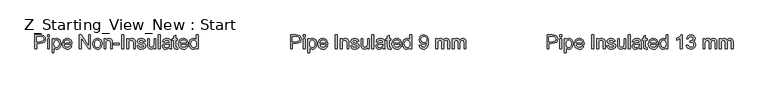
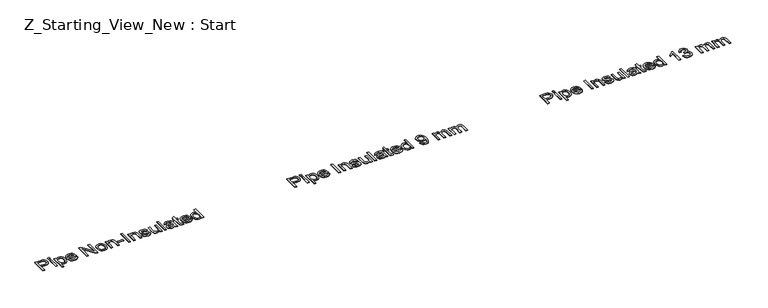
"""IFC4 building model written with IfcOpenShell, lengths in millimetres: pipe fitting geometry, Z_Starting_View_New : Start."""

from ifc_helpers import new_model, si_unit, origin, origin_with_axes, place, context, project, spatial, polyline, outline, extrude, source, transform, mapped, element, save


def z_starting_view_new_start_ca53cdfe(model_context):
    return source(origin(), model_context, "Body", "SweptSolid", [
        extrude(outline(polyline([(27240.5563046, 7445.7857303), (27240.5563046, 7596.4701955), (27296.4007914, 7596.4701955), (27318.9151695, 7595.0354557), (27337.2172988, 7587.9905155), (27349.0814931, 7573.4223885), (27353.5696535, 7552.8761791), (27350.5392255, 7535.1166757), (27341.4479417, 7520.3186225), (27324.447195, 7510.3306263), (27297.6883784, 7507.0012943), (27259.3918627, 7507.0012943), (27259.3918627, 7445.7857303), (27240.5563046, 7445.7857303)]), holes=[polyline([(27259.3918627, 7525.8368524), (27298.7920244, 7525.8368524), (27315.493867, 7527.5658978), (27326.5303268, 7532.7530339), (27332.6831532, 7541.0763641), (27334.7340953, 7552.2139915), (27329.8964471, 7567.8121881), (27317.1861241, 7576.3470504), (27298.350566, 7577.6346373), (27259.3918627, 7577.6346373), (27259.3918627, 7525.8368524)])]), origin_with_axes(), (0.0, 0.0, 1.0), 5.0),
        extrude(outline(polyline([(27377.1141012, 7445.7857303), (27377.1141012, 7556.4446344), (27395.9496593, 7556.4446344), (27395.9496593, 7445.7857303), (27377.1141012, 7445.7857303)])), origin_with_axes(), (0.0, 0.0, 1.0), 5.0),
        extrude(outline(polyline([(27377.1141012, 7577.6346373), (27377.1141012, 7596.4701955), (27395.9496593, 7596.4701955), (27395.9496593, 7577.6346373), (27377.1141012, 7577.6346373)])), origin_with_axes(), (0.0, 0.0, 1.0), 5.0),
        extrude(outline(polyline([(27424.2029965, 7403.4057244), (27424.2029965, 7556.4446344), (27443.0385547, 7556.4446344), (27443.0385547, 7537.9769583), (27456.0615773, 7553.593549), (27473.6463367, 7558.7990792), (27486.3842508, 7556.9780633), (27497.5218782, 7551.5150157), (27506.5901694, 7542.7410301), (27513.1200748, 7530.9872003), (27518.3807873, 7501.9613109), (27516.8954638, 7485.8526781), (27512.4394931, 7471.4454994), (27505.1554296, 7459.4709405), (27495.1858275, 7450.6601667), (27483.574552, 7445.2385058), (27471.3654683, 7443.4312855), (27454.9763254, 7448.2689337), (27443.0385547, 7460.5010101), (27443.0385547, 7403.4057244), (27424.2029965, 7403.4057244)]), holes=[polyline([(27443.0385547, 7500.2322656), (27445.0757012, 7483.346482), (27451.1871409, 7471.5374699), (27460.2048483, 7464.5845002), (27470.9607981, 7462.2668436), (27481.8914919, 7464.6672737), (27491.1391256, 7471.8685637), (27497.4437033, 7484.1098371), (27499.5452292, 7501.6302171), (27497.494287, 7518.4240302), (27491.3414607, 7530.3985892), (27482.3375488, 7537.5722881), (27471.7333503, 7539.963521), (27461.0877651, 7537.4205367), (27451.7389639, 7529.7915839), (27445.213657, 7517.3157857), (27443.0385547, 7500.2322656)])]), origin_with_axes(), (0.0, 0.0, 1.0), 5.0),
        extrude(outline(polyline([(27617.0467384, 7478.747957), (27635.5144146, 7476.3935123), (27628.860349, 7462.4783758), (27618.2423549, 7452.0765124), (27603.8995556, 7445.5925922), (27586.0710744, 7443.4312855), (27563.9705636, 7447.1606892), (27546.9652183, 7458.3489004), (27536.1218965, 7476.2693521), (27532.5074559, 7500.1954774), (27536.1586847, 7524.9263445), (27547.1123711, 7543.4216118), (27563.8877901, 7554.9547123), (27585.0042166, 7558.7990792), (27605.4630541, 7554.9639094), (27621.8108103, 7543.4584), (27632.5299719, 7524.9999209), (27636.1030258, 7500.305842), (27635.9926612, 7495.2290704), (27551.3430141, 7495.2290704), (27554.6033683, 7481.129993), (27562.1771388, 7470.7649177), (27573.1078326, 7464.3913622), (27586.4389564, 7462.2668436), (27604.9066326, 7466.203181), (27617.0467384, 7478.747957)]), holes=[polyline([(27551.3430141, 7514.0646286), (27617.2674676, 7514.0646286), (27614.7198848, 7524.0158365), (27609.7258867, 7531.1343531), (27598.7446092, 7537.7562291), (27584.9306402, 7539.963521), (27572.2341129, 7538.202286), (27561.7356804, 7532.9185808), (27554.4378214, 7524.6826227), (27551.3430141, 7514.0646286)])]), origin_with_axes(), (0.0, 0.0, 1.0), 5.0),
        extrude(outline(polyline([(27718.5085927, 7445.7857303), (27718.5085927, 7596.4701955), (27737.3441508, 7596.4701955), (27737.3441508, 7445.7857303), (27718.5085927, 7445.7857303)])), origin_with_axes(), (0.0, 0.0, 1.0), 5.0),
        extrude(outline(polyline([(27772.6608224, 7445.7857303), (27772.6608224, 7556.4446344), (27791.4963805, 7556.4446344), (27791.4963805, 7540.9935906), (27805.8989606, 7554.347707), (27825.5622533, 7558.7990792), (27843.3493477, 7555.2122297), (27855.4894536, 7545.7944507), (27861.1364422, 7531.9436935), (27862.1297236, 7513.7335348), (27862.1297236, 7445.7857303), (27843.2941654, 7445.7857303), (27843.2941654, 7511.195149), (27841.1236617, 7527.8602034), (27833.4533221, 7536.6709772), (27820.5222699, 7539.963521), (27809.4904086, 7538.114914), (27800.0864251, 7532.5690929), (27793.6438917, 7521.8545298), (27791.4963805, 7504.4996967), (27791.4963805, 7445.7857303), (27772.6608224, 7445.7857303)])), origin_with_axes(), (0.0, 0.0, 1.0), 5.0),
        extrude(outline(polyline([(27880.9652818, 7478.747957), (27899.8008399, 7481.1024018), (27902.771487, 7473.0457861), (27908.5196432, 7467.122886), (27928.4956355, 7462.2668436), (27947.6990757, 7466.7182158), (27953.9530696, 7477.1660645), (27952.3803741, 7481.9669245), (27947.6622875, 7485.6273503), (27928.2749063, 7490.9984275), (27899.9112045, 7500.2138715), (27887.5319754, 7510.9744198), (27883.3197265, 7526.1679462), (27886.7042409, 7540.2026443), (27895.938079, 7550.9264045), (27907.9126379, 7556.4998167), (27924.1178398, 7558.7990792), (27947.0368881, 7555.1018651), (27961.6050151, 7545.0954749), (27968.0797382, 7528.1912972), (27949.2441801, 7525.8368524), (27942.1624517, 7536.2295188), (27925.5893678, 7539.963521), (27907.56315, 7536.3950657), (27902.1552847, 7528.0809326), (27904.3993648, 7522.5994909), (27911.425911, 7518.4424243), (27927.6495069, 7514.4325106), (27955.2958389, 7505.5665545), (27968.1349205, 7495.523376), (27972.7886278, 7479.1526272), (27967.3255801, 7461.1264095), (27951.5618366, 7448.0482045), (27928.2381181, 7443.4312855), (27909.2462101, 7445.6569716), (27895.386256, 7452.3340298), (27886.1340238, 7463.3888837), (27880.9652818, 7478.747957)])), origin_with_axes(), (0.0, 0.0, 1.0), 5.0),
        extrude(outline(polyline([(28064.6119737, 7445.7857303), (28064.6119737, 7464.8052294), (28049.8599057, 7448.7747715), (28030.6196774, 7443.4312855), (28012.9061593, 7447.1836818), (28000.6924771, 7456.6014609), (27995.0822767, 7470.4706121), (27993.9786307, 7487.9817951), (27993.9786307, 7556.4446344), (28012.8141888, 7556.4446344), (28012.8141888, 7496.8477512), (28013.954623, 7477.644311), (28021.4042334, 7466.3687279), (28035.4389315, 7462.2668436), (28051.1658868, 7466.4606984), (28061.5585532, 7477.8834343), (28064.6119737, 7498.8711022), (28064.6119737, 7556.4446344), (28083.4475319, 7556.4446344), (28083.4475319, 7445.7857303), (28064.6119737, 7445.7857303)])), origin_with_axes(), (0.0, 0.0, 1.0), 5.0),
        extrude(outline(polyline([(28109.3464244, 7445.7857303), (28109.3464244, 7596.4701955), (28128.1819825, 7596.4701955), (28128.1819825, 7445.7857303), (28109.3464244, 7445.7857303)])), origin_with_axes(), (0.0, 0.0, 1.0), 5.0),
        extrude(outline(polyline([(28227.0686628, 7459.9123989), (28208.8033218, 7447.1468936), (28188.6249943, 7443.4312855), (28172.8842435, 7445.6661686), (28161.272968, 7452.370818), (28154.1130646, 7462.5519522), (28151.7264302, 7475.2162899), (28155.3316738, 7490.1155107), (28164.8046351, 7500.9312413), (28177.9932047, 7507.1116589), (28194.290377, 7509.9443502), (28226.9582982, 7516.4190733), (28227.0686628, 7520.6129281), (28225.7718788, 7529.0190317), (28221.8815267, 7534.5188675), (28213.1811175, 7538.6023576), (28201.0594058, 7539.963521), (28182.0031184, 7536.3398834), (28172.9164331, 7523.4824076), (28154.080875, 7525.8368524), (28162.2294612, 7544.2309522), (28178.6369982, 7555.0098946), (28203.4874269, 7558.7990792), (28226.3145047, 7555.451353), (28239.2087687, 7547.0452494), (28244.984516, 7534.2613501), (28245.904221, 7517.7802367), (28245.904221, 7494.3461536), (28246.8607142, 7461.6230502), (28250.6131105, 7445.7857303), (28231.7775524, 7445.7857303), (28227.0686628, 7459.9123989)]), holes=[polyline([(28227.0686628, 7497.5835152), (28196.68161, 7491.8077679), (28180.4764081, 7488.7543473), (28173.1371623, 7483.7879404), (28170.5619884, 7476.5406651), (28176.1721888, 7466.3503338), (28192.6349081, 7462.2668436), (28211.6911954, 7466.7733981), (28223.9784541, 7477.6810992), (28226.9582982, 7492.2492263), (28227.0686628, 7497.5835152)])]), origin_with_axes(), (0.0, 0.0, 1.0), 5.0),
        extrude(outline(polyline([(28311.8286745, 7461.4942915), (28314.1831193, 7445.2339073), (28300.0932389, 7443.4312855), (28284.3111013, 7446.5582825), (28276.4384266, 7454.7620509), (28274.1575582, 7476.1359949), (28274.1575582, 7537.6090763), (28260.0308896, 7537.6090763), (28260.0308896, 7556.4446344), (28274.1575582, 7556.4446344), (28274.1575582, 7583.3368083), (28292.9931164, 7594.4100563), (28292.9931164, 7556.4446344), (28311.8286745, 7556.4446344), (28311.8286745, 7537.6090763), (28292.9931164, 7537.6090763), (28292.9931164, 7476.6878179), (28293.9863977, 7466.9757332), (28297.2053652, 7463.5360365), (28303.624906, 7462.2668436), (28311.8286745, 7461.4942915)])), origin_with_axes(), (0.0, 0.0, 1.0), 5.0),
        extrude(outline(polyline([(28408.1401808, 7478.747957), (28426.607857, 7476.3935123), (28419.9537914, 7462.4783758), (28409.3357973, 7452.0765124), (28394.992998, 7445.5925922), (28377.1645168, 7443.4312855), (28355.064006, 7447.1606892), (28338.0586608, 7458.3489004), (28327.215339, 7476.2693521), (28323.6008984, 7500.1954774), (28327.2521272, 7524.9263445), (28338.2058136, 7543.4216118), (28354.9812325, 7554.9547123), (28376.0976591, 7558.7990792), (28396.5564965, 7554.9639094), (28412.9042527, 7543.4584), (28423.6234143, 7524.9999209), (28427.1964682, 7500.305842), (28427.0861036, 7495.2290704), (28342.4364565, 7495.2290704), (28345.6968107, 7481.129993), (28353.2705813, 7470.7649177), (28364.201275, 7464.3913622), (28377.5323988, 7462.2668436), (28396.000075, 7466.203181), (28408.1401808, 7478.747957)]), holes=[polyline([(28342.4364565, 7514.0646286), (28408.36091, 7514.0646286), (28405.8133272, 7524.0158365), (28400.8193291, 7531.1343531), (28389.8380516, 7537.7562291), (28376.0240827, 7539.963521), (28363.3275553, 7538.202286), (28352.8291229, 7532.9185808), (28345.5312638, 7524.6826227), (28342.4364565, 7514.0646286)])]), origin_with_axes(), (0.0, 0.0, 1.0), 5.0),
        extrude(outline(polyline([(28514.3109247, 7445.7857303), (28514.3109247, 7463.5544306), (28501.8489221, 7448.4620718), (28484.6228476, 7443.4312855), (28472.4459536, 7445.2523014), (28461.2991291, 7450.715349), (28451.862956, 7459.4387508), (28444.8180158, 7471.0408292), (28440.431023, 7485.0525347), (28438.968692, 7501.0048177), (28444.3581633, 7530.9872003), (28451.0904038, 7542.8789858), (28460.5081829, 7551.6253803), (28471.8987291, 7557.0056545), (28484.5492712, 7558.7990792), (28501.9133014, 7553.6671254), (28514.3109247, 7540.331403), (28514.3109247, 7596.4701955), (28533.1464828, 7596.4701955), (28533.1464828, 7445.7857303), (28514.3109247, 7445.7857303)]), holes=[polyline([(28457.8042502, 7501.0783941), (28459.9287687, 7484.0408592), (28466.3023243, 7471.923746), (28475.5637535, 7464.6810692), (28486.351893, 7462.2668436), (28497.135434, 7464.5707046), (28506.1623385, 7471.4822876), (28512.2737781, 7483.1303513), (28514.3109247, 7499.6436544), (28512.2369899, 7517.6974633), (28506.0151857, 7530.2146482), (28496.758355, 7537.5263028), (28485.5793408, 7539.963521), (28474.6808367, 7537.6228718), (28465.7505013, 7530.6009243), (28459.790813, 7518.5389933), (28457.8042502, 7501.0783941)])]), origin_with_axes(), (0.0, 0.0, 1.0), 5.0),
        extrude(outline(polyline([(28686.1853928, 7445.7857303), (28667.3498346, 7445.7857303), (28667.3498346, 7563.2136631), (28649.5075579, 7550.5033402), (28629.6787183, 7540.9935906), (28629.6787183, 7558.7990792), (28657.2882621, 7576.4206268), (28674.045287, 7596.4701955), (28686.1853928, 7596.4701955), (28686.1853928, 7445.7857303)])), origin_with_axes(), (0.0, 0.0, 1.0), 5.0),
        extrude(outline(polyline([(28730.9198434, 7485.8112913), (28749.7554016, 7488.1657361), (28753.9722489, 7476.3291329), (28760.1480679, 7468.3368966), (28768.5863612, 7463.7843569), (28779.5906314, 7462.2668436), (28792.5032894, 7464.354574), (28802.4728915, 7470.6177649), (28808.846447, 7479.9619676), (28810.9709656, 7491.2927331), (28808.8648411, 7502.0486829), (28802.5464679, 7510.7720847), (28792.981536, 7516.5524306), (28781.1357358, 7518.4792125), (28767.9287721, 7516.4190733), (28770.0256995, 7535.2546315), (28773.0423319, 7535.0339023), (28794.4162758, 7540.4417676), (28801.5347924, 7547.3027668), (28803.9076313, 7557.0700338), (28802.1877829, 7565.2048244), (28797.0282379, 7571.8037077), (28789.1555632, 7576.1769049), (28779.2963258, 7577.6346373), (28769.4186942, 7576.1631094), (28761.3436844, 7571.7485254), (28755.4483754, 7564.3908855), (28752.1098463, 7554.0901896), (28733.2742882, 7556.4446344), (28738.8201093, 7573.3580091), (28748.6885438, 7585.9855586), (28762.189813, 7593.8490363), (28778.6341382, 7596.4701955), (28801.3508514, 7591.3014535), (28817.2433536, 7577.1747848), (28822.7431894, 7558.1736798), (28817.5192651, 7540.8096496), (28802.0682213, 7528.33845), (28813.8588392, 7523.5743781), (28822.5960366, 7515.4625802), (28828.0039019, 7504.4445144), (28829.8065237, 7490.9616393), (28826.2012802, 7472.6043277), (28815.3855495, 7457.2636485), (28799.060786, 7446.8893763), (28778.9284438, 7443.4312855), (28760.718285, 7446.3835385), (28745.8926406, 7455.2402975), (28735.5827477, 7468.787552), (28730.9198434, 7485.8112913)])), origin_with_axes(), (0.0, 0.0, 1.0), 5.0),
        extrude(outline(polyline([(28909.8576459, 7445.7857303), (28909.8576459, 7556.4446344), (28928.693204, 7556.4446344), (28928.693204, 7538.2344757), (28941.6426502, 7553.1520906), (28960.0735382, 7558.7990792), (28970.548978, 7557.3597409), (28978.9458846, 7553.041726), (28989.3201568, 7536.9101005), (29004.0170425, 7553.3268345), (29022.5766892, 7558.7990792), (29036.7355475, 7556.5228093), (29047.2063888, 7549.6939998), (29053.6765134, 7538.1287096), (29055.8332216, 7521.6429977), (29055.8332216, 7445.7857303), (29036.9976634, 7445.7857303), (29036.9976634, 7513.5495938), (29035.2502239, 7529.2765491), (29028.9226536, 7537.0204651), (29018.1621052, 7539.963521), (29007.9579784, 7538.0781258), (28999.6392468, 7532.4219401), (28994.1072213, 7522.6086879), (28992.2632128, 7508.252093), (28992.2632128, 7445.7857303), (28973.4276546, 7445.7857303), (28973.4276546, 7515.6465212), (28969.068253, 7533.8934681), (28963.3154983, 7538.4460078), (28954.7760375, 7539.963521), (28940.8333099, 7535.9168191), (28931.5626836, 7524.0710188), (28928.693204, 7501.5934289), (28928.693204, 7445.7857303), (28909.8576459, 7445.7857303)])), origin_with_axes(), (0.0, 0.0, 1.0), 5.0),
        extrude(outline(polyline([(29084.0865588, 7445.7857303), (29084.0865588, 7556.4446344), (29102.9221169, 7556.4446344), (29102.9221169, 7538.2344757), (29115.8715632, 7553.1520906), (29134.3024511, 7558.7990792), (29144.7778909, 7557.3597409), (29153.1747975, 7553.041726), (29163.5490697, 7536.9101005), (29178.2459554, 7553.3268345), (29196.8056021, 7558.7990792), (29210.9644604, 7556.5228093), (29221.4353017, 7549.6939998), (29227.9054263, 7538.1287096), (29230.0621345, 7521.6429977), (29230.0621345, 7445.7857303), (29211.2265763, 7445.7857303), (29211.2265763, 7513.5495938), (29209.4791368, 7529.2765491), (29203.1515665, 7537.0204651), (29192.3910182, 7539.963521), (29182.1868913, 7538.0781258), (29173.8681597, 7532.4219401), (29168.3361342, 7522.6086879), (29166.4921257, 7508.252093), (29166.4921257, 7445.7857303), (29147.6565675, 7445.7857303), (29147.6565675, 7515.6465212), (29143.2971659, 7533.8934681), (29137.5444112, 7538.4460078), (29129.0049504, 7539.963521), (29115.0622228, 7535.9168191), (29105.7915965, 7524.0710188), (29102.9221169, 7501.5934289), (29102.9221169, 7445.7857303), (29084.0865588, 7445.7857303)])), origin_with_axes(), (0.0, 0.0, 1.0), 5.0),
        extrude(outline(polyline([(24498.2402014, 7445.7857303), (24498.2402014, 7596.4701955), (24554.0846883, 7596.4701955), (24576.5990664, 7595.0354557), (24594.9011956, 7587.9905155), (24606.76539, 7573.4223885), (24611.2535503, 7552.8761791), (24608.2231224, 7535.1166757), (24599.1318386, 7520.3186225), (24582.1310919, 7510.3306263), (24555.3722752, 7507.0012943), (24517.0757595, 7507.0012943), (24517.0757595, 7445.7857303), (24498.2402014, 7445.7857303)]), holes=[polyline([(24517.0757595, 7525.8368524), (24556.4759212, 7525.8368524), (24573.1777638, 7527.5658978), (24584.2142237, 7532.7530339), (24590.36705, 7541.0763641), (24592.4179922, 7552.2139915), (24587.5803439, 7567.8121881), (24574.870021, 7576.3470504), (24556.0344628, 7577.6346373), (24517.0757595, 7577.6346373), (24517.0757595, 7525.8368524)])]), origin_with_axes(), (0.0, 0.0, 1.0), 5.0),
        extrude(outline(polyline([(24634.797998, 7445.7857303), (24634.797998, 7556.4446344), (24653.6335562, 7556.4446344), (24653.6335562, 7445.7857303), (24634.797998, 7445.7857303)])), origin_with_axes(), (0.0, 0.0, 1.0), 5.0),
        extrude(outline(polyline([(24634.797998, 7577.6346373), (24634.797998, 7596.4701955), (24653.6335562, 7596.4701955), (24653.6335562, 7577.6346373), (24634.797998, 7577.6346373)])), origin_with_axes(), (0.0, 0.0, 1.0), 5.0),
        extrude(outline(polyline([(24681.8868934, 7403.4057244), (24681.8868934, 7556.4446344), (24700.7224515, 7556.4446344), (24700.7224515, 7537.9769583), (24713.7454742, 7553.593549), (24731.3302335, 7558.7990792), (24744.0681476, 7556.9780633), (24755.205775, 7551.5150157), (24764.2740662, 7542.7410301), (24770.8039716, 7530.9872003), (24776.0646842, 7501.9613109), (24774.5793606, 7485.8526781), (24770.1233899, 7471.4454994), (24762.8393264, 7459.4709405), (24752.8697244, 7450.6601667), (24741.2584489, 7445.2385058), (24729.0493652, 7443.4312855), (24712.6602223, 7448.2689337), (24700.7224515, 7460.5010101), (24700.7224515, 7403.4057244), (24681.8868934, 7403.4057244)]), holes=[polyline([(24700.7224515, 7500.2322656), (24702.7595981, 7483.346482), (24708.8710377, 7471.5374699), (24717.8887451, 7464.5845002), (24728.644695, 7462.2668436), (24739.5753888, 7464.6672737), (24748.8230224, 7471.8685637), (24755.1276001, 7484.1098371), (24757.229126, 7501.6302171), (24755.1781839, 7518.4240302), (24749.0253575, 7530.3985892), (24740.0214457, 7537.5722881), (24729.4172472, 7539.963521), (24718.7716619, 7537.4205367), (24709.4228607, 7529.7915839), (24702.8975538, 7517.3157857), (24700.7224515, 7500.2322656)])]), origin_with_axes(), (0.0, 0.0, 1.0), 5.0),
        extrude(outline(polyline([(24874.7306353, 7478.747957), (24893.1983114, 7476.3935123), (24886.5442458, 7462.4783758), (24875.9262517, 7452.0765124), (24861.5834525, 7445.5925922), (24843.7549713, 7443.4312855), (24821.6544604, 7447.1606892), (24804.6491152, 7458.3489004), (24793.8057934, 7476.2693521), (24790.1913528, 7500.1954774), (24793.8425816, 7524.9263445), (24804.796268, 7543.4216118), (24821.571687, 7554.9547123), (24842.6881135, 7558.7990792), (24863.1469509, 7554.9639094), (24879.4947071, 7543.4584), (24890.2138687, 7524.9999209), (24893.7869226, 7500.305842), (24893.676558, 7495.2290704), (24809.0269109, 7495.2290704), (24812.2872651, 7481.129993), (24819.8610357, 7470.7649177), (24830.7917295, 7464.3913622), (24844.1228533, 7462.2668436), (24862.5905294, 7466.203181), (24874.7306353, 7478.747957)]), holes=[polyline([(24809.0269109, 7514.0646286), (24874.9513645, 7514.0646286), (24872.4037816, 7524.0158365), (24867.4097836, 7531.1343531), (24856.428506, 7537.7562291), (24842.6145371, 7539.963521), (24829.9180097, 7538.202286), (24819.4195773, 7532.9185808), (24812.1217182, 7524.6826227), (24809.0269109, 7514.0646286)])]), origin_with_axes(), (0.0, 0.0, 1.0), 5.0),
        extrude(outline(polyline([(24976.1924895, 7445.7857303), (24976.1924895, 7596.4701955), (24995.0280477, 7596.4701955), (24995.0280477, 7445.7857303), (24976.1924895, 7445.7857303)])), origin_with_axes(), (0.0, 0.0, 1.0), 5.0),
        extrude(outline(polyline([(25030.3447192, 7445.7857303), (25030.3447192, 7556.4446344), (25049.1802774, 7556.4446344), (25049.1802774, 7540.9935906), (25063.5828575, 7554.347707), (25083.2461501, 7558.7990792), (25101.0332446, 7555.2122297), (25113.1733504, 7545.7944507), (25118.8203391, 7531.9436935), (25119.8136204, 7513.7335348), (25119.8136204, 7445.7857303), (25100.9780623, 7445.7857303), (25100.9780623, 7511.195149), (25098.8075585, 7527.8602034), (25091.1372189, 7536.6709772), (25078.2061668, 7539.963521), (25067.1743055, 7538.114914), (25057.770322, 7532.5690929), (25051.3277885, 7521.8545298), (25049.1802774, 7504.4996967), (25049.1802774, 7445.7857303), (25030.3447192, 7445.7857303)])), origin_with_axes(), (0.0, 0.0, 1.0), 5.0),
        extrude(outline(polyline([(25138.6491786, 7478.747957), (25157.4847368, 7481.1024018), (25160.4553839, 7473.0457861), (25166.20354, 7467.122886), (25186.1795324, 7462.2668436), (25205.3829725, 7466.7182158), (25211.6369664, 7477.1660645), (25210.0642709, 7481.9669245), (25205.3461843, 7485.6273503), (25185.9588032, 7490.9984275), (25157.5951014, 7500.2138715), (25145.2158722, 7510.9744198), (25141.0036234, 7526.1679462), (25144.3881377, 7540.2026443), (25153.6219758, 7550.9264045), (25165.5965347, 7556.4998167), (25181.8017366, 7558.7990792), (25204.7207849, 7555.1018651), (25219.2889119, 7545.0954749), (25225.7636351, 7528.1912972), (25206.9280769, 7525.8368524), (25199.8463485, 7536.2295188), (25183.2732646, 7539.963521), (25165.2470468, 7536.3950657), (25159.8391815, 7528.0809326), (25162.0832617, 7522.5994909), (25169.1098078, 7518.4424243), (25185.3334038, 7514.4325106), (25212.9797357, 7505.5665545), (25225.8188174, 7495.523376), (25230.4725246, 7479.1526272), (25225.009477, 7461.1264095), (25209.2457335, 7448.0482045), (25185.922015, 7443.4312855), (25166.930107, 7445.6569716), (25153.0701528, 7452.3340298), (25143.8179206, 7463.3888837), (25138.6491786, 7478.747957)])), origin_with_axes(), (0.0, 0.0, 1.0), 5.0),
        extrude(outline(polyline([(25322.2958706, 7445.7857303), (25322.2958706, 7464.8052294), (25307.5438026, 7448.7747715), (25288.3035742, 7443.4312855), (25270.5900562, 7447.1836818), (25258.3763739, 7456.6014609), (25252.7661735, 7470.4706121), (25251.6625275, 7487.9817951), (25251.6625275, 7556.4446344), (25270.4980857, 7556.4446344), (25270.4980857, 7496.8477512), (25271.6385199, 7477.644311), (25279.0881303, 7466.3687279), (25293.1228284, 7462.2668436), (25308.8497837, 7466.4606984), (25319.24245, 7477.8834343), (25322.2958706, 7498.8711022), (25322.2958706, 7556.4446344), (25341.1314287, 7556.4446344), (25341.1314287, 7445.7857303), (25322.2958706, 7445.7857303)])), origin_with_axes(), (0.0, 0.0, 1.0), 5.0),
        extrude(outline(polyline([(25367.0303212, 7445.7857303), (25367.0303212, 7596.4701955), (25385.8658794, 7596.4701955), (25385.8658794, 7445.7857303), (25367.0303212, 7445.7857303)])), origin_with_axes(), (0.0, 0.0, 1.0), 5.0),
        extrude(outline(polyline([(25484.7525597, 7459.9123989), (25466.4872186, 7447.1468936), (25446.3088912, 7443.4312855), (25430.5681403, 7445.6661686), (25418.9568648, 7452.370818), (25411.7969615, 7462.5519522), (25409.410327, 7475.2162899), (25413.0155706, 7490.1155107), (25422.488532, 7500.9312413), (25435.6771015, 7507.1116589), (25451.9742739, 7509.9443502), (25484.6421951, 7516.4190733), (25484.7525597, 7520.6129281), (25483.4557756, 7529.0190317), (25479.5654235, 7534.5188675), (25470.8650143, 7538.6023576), (25458.7433026, 7539.963521), (25439.6870153, 7536.3398834), (25430.60033, 7523.4824076), (25411.7647718, 7525.8368524), (25419.913358, 7544.2309522), (25436.320895, 7555.0098946), (25461.1713238, 7558.7990792), (25483.9984016, 7555.451353), (25496.8926655, 7547.0452494), (25502.6684128, 7534.2613501), (25503.5881178, 7517.7802367), (25503.5881178, 7494.3461536), (25504.544611, 7461.6230502), (25508.2970074, 7445.7857303), (25489.4614492, 7445.7857303), (25484.7525597, 7459.9123989)]), holes=[polyline([(25484.7525597, 7497.5835152), (25454.3655069, 7491.8077679), (25438.160305, 7488.7543473), (25430.8210592, 7483.7879404), (25428.2458852, 7476.5406651), (25433.8560856, 7466.3503338), (25450.3188049, 7462.2668436), (25469.3750923, 7466.7733981), (25481.6623509, 7477.6810992), (25484.6421951, 7492.2492263), (25484.7525597, 7497.5835152)])]), origin_with_axes(), (0.0, 0.0, 1.0), 5.0),
        extrude(outline(polyline([(25569.5125713, 7461.4942915), (25571.8670161, 7445.2339073), (25557.7771357, 7443.4312855), (25541.9949981, 7446.5582825), (25534.1223234, 7454.7620509), (25531.841455, 7476.1359949), (25531.841455, 7537.6090763), (25517.7147864, 7537.6090763), (25517.7147864, 7556.4446344), (25531.841455, 7556.4446344), (25531.841455, 7583.3368083), (25550.6770132, 7594.4100563), (25550.6770132, 7556.4446344), (25569.5125713, 7556.4446344), (25569.5125713, 7537.6090763), (25550.6770132, 7537.6090763), (25550.6770132, 7476.6878179), (25551.6702946, 7466.9757332), (25554.889262, 7463.5360365), (25561.3088029, 7462.2668436), (25569.5125713, 7461.4942915)])), origin_with_axes(), (0.0, 0.0, 1.0), 5.0),
        extrude(outline(polyline([(25665.8240777, 7478.747957), (25684.2917538, 7476.3935123), (25677.6376883, 7462.4783758), (25667.0196942, 7452.0765124), (25652.6768949, 7445.5925922), (25634.8484137, 7443.4312855), (25612.7479028, 7447.1606892), (25595.7425576, 7458.3489004), (25584.8992358, 7476.2693521), (25581.2847952, 7500.1954774), (25584.936024, 7524.9263445), (25595.8897104, 7543.4216118), (25612.6651294, 7554.9547123), (25633.7815559, 7558.7990792), (25654.2403934, 7554.9639094), (25670.5881495, 7543.4584), (25681.3073112, 7524.9999209), (25684.880365, 7500.305842), (25684.7700004, 7495.2290704), (25600.1203533, 7495.2290704), (25603.3807075, 7481.129993), (25610.9544781, 7470.7649177), (25621.8851719, 7464.3913622), (25635.2162957, 7462.2668436), (25653.6839718, 7466.203181), (25665.8240777, 7478.747957)]), holes=[polyline([(25600.1203533, 7514.0646286), (25666.0448069, 7514.0646286), (25663.4972241, 7524.0158365), (25658.503226, 7531.1343531), (25647.5219484, 7537.7562291), (25633.7079795, 7539.963521), (25621.0114521, 7538.202286), (25610.5130197, 7532.9185808), (25603.2151606, 7524.6826227), (25600.1203533, 7514.0646286)])]), origin_with_axes(), (0.0, 0.0, 1.0), 5.0),
        extrude(outline(polyline([(25771.9948215, 7445.7857303), (25771.9948215, 7463.5544306), (25759.5328189, 7448.4620718), (25742.3067445, 7443.4312855), (25730.1298504, 7445.2523014), (25718.983026, 7450.715349), (25709.5468528, 7459.4387508), (25702.5019126, 7471.0408292), (25698.1149198, 7485.0525347), (25696.6525889, 7501.0048177), (25702.0420601, 7530.9872003), (25708.7743006, 7542.8789858), (25718.1920797, 7551.6253803), (25729.582626, 7557.0056545), (25742.2331681, 7558.7990792), (25759.5971983, 7553.6671254), (25771.9948215, 7540.331403), (25771.9948215, 7596.4701955), (25790.8303796, 7596.4701955), (25790.8303796, 7445.7857303), (25771.9948215, 7445.7857303)]), holes=[polyline([(25715.488147, 7501.0783941), (25717.6126656, 7484.0408592), (25723.9862211, 7471.923746), (25733.2476504, 7464.6810692), (25744.0357899, 7462.2668436), (25754.8193308, 7464.5707046), (25763.8462353, 7471.4822876), (25769.9576749, 7483.1303513), (25771.9948215, 7499.6436544), (25769.9208867, 7517.6974633), (25763.6990825, 7530.2146482), (25754.4422518, 7537.5263028), (25743.2632377, 7539.963521), (25732.3647336, 7537.6228718), (25723.4343981, 7530.6009243), (25717.4747098, 7518.5389933), (25715.488147, 7501.0783941)])]), origin_with_axes(), (0.0, 0.0, 1.0), 5.0),
        extrude(outline(polyline([(25875.5903913, 7483.4568466), (25894.4259495, 7485.8112913), (25897.6449169, 7475.1197209), (25902.8872354, 7467.8402559), (25910.0241461, 7463.6601967), (25918.9268904, 7462.2668436), (25934.1755991, 7465.8536931), (25944.5130831, 7475.4370191), (25950.6751066, 7491.8077679), (25953.3974333, 7513.6599584), (25953.2870687, 7517.3387783), (25938.222301, 7503.0649569), (25917.565727, 7497.5835152), (25900.3902363, 7500.9312413), (25886.0934223, 7510.9744198), (25876.4503155, 7526.489843), (25873.2359466, 7546.2543031), (25876.6066653, 7566.6717539), (25886.7188217, 7582.6746207), (25901.9077496, 7593.0213018), (25920.5087829, 7596.4701955), (25934.5572766, 7594.5020268), (25947.3457745, 7588.5975208), (25958.0419435, 7579.050983), (25965.8134507, 7566.1567191), (25970.5453328, 7548.3328364), (25972.1226269, 7523.9974424), (25970.5499313, 7498.195119), (25965.8318448, 7478.2513163), (25958.0097538, 7463.2647236), (25947.1250453, 7452.3340298), (25933.6467687, 7445.6569716), (25918.0439736, 7443.4312855), (25901.9399392, 7446.0570432), (25889.0916606, 7453.9343165), (25880.1061428, 7466.5664645), (25875.5903913, 7483.4568466)]), holes=[polyline([(25953.2870687, 7546.6957615), (25951.2545207, 7559.4612668), (25945.1568766, 7569.283716), (25935.6931123, 7575.546907), (25923.5622035, 7577.6346373), (25910.9806393, 7575.3859586), (25900.9006726, 7568.6399226), (25894.2787967, 7558.3162341), (25892.0715047, 7545.3345982), (25894.159235, 7533.6957315), (25900.422426, 7524.4572949), (25910.2540723, 7518.4286287), (25923.0471687, 7516.4190733), (25935.0815085, 7518.4286287), (25944.7706005, 7524.4572949), (25951.1579517, 7534.0360224), (25953.2870687, 7546.6957615)])]), origin_with_axes(), (0.0, 0.0, 1.0), 5.0),
        extrude(outline(polyline([(26052.173749, 7445.7857303), (26052.173749, 7556.4446344), (26071.0093072, 7556.4446344), (26071.0093072, 7538.2344757), (26083.9587534, 7553.1520906), (26102.3896414, 7558.7990792), (26112.8650812, 7557.3597409), (26121.2619877, 7553.041726), (26131.63626, 7536.9101005), (26146.3331457, 7553.3268345), (26164.8927923, 7558.7990792), (26179.0516506, 7556.5228093), (26189.5224919, 7549.6939998), (26195.9926165, 7538.1287096), (26198.1493247, 7521.6429977), (26198.1493247, 7445.7857303), (26179.3137666, 7445.7857303), (26179.3137666, 7513.5495938), (26177.5663271, 7529.2765491), (26171.2387568, 7537.0204651), (26160.4782084, 7539.963521), (26150.2740816, 7538.0781258), (26141.9553499, 7532.4219401), (26136.4233244, 7522.6086879), (26134.5793159, 7508.252093), (26134.5793159, 7445.7857303), (26115.7437578, 7445.7857303), (26115.7437578, 7515.6465212), (26111.3843561, 7533.8934681), (26105.6316014, 7538.4460078), (26097.0921406, 7539.963521), (26083.149413, 7535.9168191), (26073.8787867, 7524.0710188), (26071.0093072, 7501.5934289), (26071.0093072, 7445.7857303), (26052.173749, 7445.7857303)])), origin_with_axes(), (0.0, 0.0, 1.0), 5.0),
        extrude(outline(polyline([(26226.4026619, 7445.7857303), (26226.4026619, 7556.4446344), (26245.2382201, 7556.4446344), (26245.2382201, 7538.2344757), (26258.1876663, 7553.1520906), (26276.6185543, 7558.7990792), (26287.0939941, 7557.3597409), (26295.4909006, 7553.041726), (26305.8651729, 7536.9101005), (26320.5620586, 7553.3268345), (26339.1217053, 7558.7990792), (26353.2805635, 7556.5228093), (26363.7514048, 7549.6939998), (26370.2215294, 7538.1287096), (26372.3782376, 7521.6429977), (26372.3782376, 7445.7857303), (26353.5426795, 7445.7857303), (26353.5426795, 7513.5495938), (26351.79524, 7529.2765491), (26345.4676697, 7537.0204651), (26334.7071213, 7539.963521), (26324.5029945, 7538.0781258), (26316.1842629, 7532.4219401), (26310.6522374, 7522.6086879), (26308.8082289, 7508.252093), (26308.8082289, 7445.7857303), (26289.9726707, 7445.7857303), (26289.9726707, 7515.6465212), (26285.6132691, 7533.8934681), (26279.8605144, 7538.4460078), (26271.3210535, 7539.963521), (26257.3783259, 7535.9168191), (26248.1076997, 7524.0710188), (26245.2382201, 7501.5934289), (26245.2382201, 7445.7857303), (26226.4026619, 7445.7857303)])), origin_with_axes(), (0.0, 0.0, 1.0), 5.0),
        extrude(outline(polyline([(21762.9874325, 7445.7857303), (21762.9874325, 7596.4701955), (21818.8319194, 7596.4701955), (21841.3462975, 7595.0354557), (21859.6484268, 7587.9905155), (21871.5126211, 7573.4223885), (21876.0007815, 7552.8761791), (21872.9703535, 7535.1166757), (21863.8790697, 7520.3186225), (21846.878323, 7510.3306263), (21820.1195064, 7507.0012943), (21781.8229907, 7507.0012943), (21781.8229907, 7445.7857303), (21762.9874325, 7445.7857303)]), holes=[polyline([(21781.8229907, 7525.8368524), (21821.2231524, 7525.8368524), (21837.924995, 7527.5658978), (21848.9614548, 7532.7530339), (21855.1142812, 7541.0763641), (21857.1652233, 7552.2139915), (21852.3275751, 7567.8121881), (21839.6172521, 7576.3470504), (21820.781694, 7577.6346373), (21781.8229907, 7577.6346373), (21781.8229907, 7525.8368524)])]), origin_with_axes(), (0.0, 0.0, 1.0), 5.0),
        extrude(outline(polyline([(21899.5452292, 7445.7857303), (21899.5452292, 7556.4446344), (21918.3807873, 7556.4446344), (21918.3807873, 7445.7857303), (21899.5452292, 7445.7857303)])), origin_with_axes(), (0.0, 0.0, 1.0), 5.0),
        extrude(outline(polyline([(21899.5452292, 7577.6346373), (21899.5452292, 7596.4701955), (21918.3807873, 7596.4701955), (21918.3807873, 7577.6346373), (21899.5452292, 7577.6346373)])), origin_with_axes(), (0.0, 0.0, 1.0), 5.0),
        extrude(outline(polyline([(21946.6341245, 7403.4057244), (21946.6341245, 7556.4446344), (21965.4696827, 7556.4446344), (21965.4696827, 7537.9769583), (21978.4927053, 7553.593549), (21996.0774647, 7558.7990792), (22008.8153788, 7556.9780633), (22019.9530062, 7551.5150157), (22029.0212974, 7542.7410301), (22035.5512028, 7530.9872003), (22040.8119153, 7501.9613109), (22039.3265917, 7485.8526781), (22034.8706211, 7471.4454994), (22027.5865576, 7459.4709405), (22017.6169555, 7450.6601667), (22006.00568, 7445.2385058), (21993.7965963, 7443.4312855), (21977.4074534, 7448.2689337), (21965.4696827, 7460.5010101), (21965.4696827, 7403.4057244), (21946.6341245, 7403.4057244)]), holes=[polyline([(21965.4696827, 7500.2322656), (21967.5068292, 7483.346482), (21973.6182689, 7471.5374699), (21982.6359763, 7464.5845002), (21993.3919261, 7462.2668436), (22004.3226199, 7464.6672737), (22013.5702536, 7471.8685637), (22019.8748313, 7484.1098371), (22021.9763572, 7501.6302171), (22019.925415, 7518.4240302), (22013.7725887, 7530.3985892), (22004.7686768, 7537.5722881), (21994.1644783, 7539.963521), (21983.5188931, 7537.4205367), (21974.1700919, 7529.7915839), (21967.644785, 7517.3157857), (21965.4696827, 7500.2322656)])]), origin_with_axes(), (0.0, 0.0, 1.0), 5.0),
        extrude(outline(polyline([(22139.4778664, 7478.747957), (22157.9455426, 7476.3935123), (22151.291477, 7462.4783758), (22140.6734829, 7452.0765124), (22126.3306836, 7445.5925922), (22108.5022024, 7443.4312855), (22086.4016916, 7447.1606892), (22069.3963463, 7458.3489004), (22058.5530245, 7476.2693521), (22054.9385839, 7500.1954774), (22058.5898127, 7524.9263445), (22069.5434991, 7543.4216118), (22086.3189181, 7554.9547123), (22107.4353446, 7558.7990792), (22127.8941821, 7554.9639094), (22144.2419382, 7543.4584), (22154.9610999, 7524.9999209), (22158.5341538, 7500.305842), (22158.4237892, 7495.2290704), (22073.7741421, 7495.2290704), (22077.0344963, 7481.129993), (22084.6082668, 7470.7649177), (22095.5389606, 7464.3913622), (22108.8700844, 7462.2668436), (22127.3377606, 7466.203181), (22139.4778664, 7478.747957)]), holes=[polyline([(22073.7741421, 7514.0646286), (22139.6985956, 7514.0646286), (22137.1510128, 7524.0158365), (22132.1570147, 7531.1343531), (22121.1757371, 7537.7562291), (22107.3617682, 7539.963521), (22094.6652409, 7538.202286), (22084.1668084, 7532.9185808), (22076.8689494, 7524.6826227), (22073.7741421, 7514.0646286)])]), origin_with_axes(), (0.0, 0.0, 1.0), 5.0),
        extrude(outline(polyline([(22238.5852759, 7445.7857303), (22238.5852759, 7596.4701955), (22258.7452092, 7596.4701955), (22337.4719562, 7477.0924881), (22337.4719562, 7596.4701955), (22356.3075144, 7596.4701955), (22356.3075144, 7445.7857303), (22336.147581, 7445.7857303), (22257.4208341, 7565.2002259), (22257.4208341, 7445.7857303), (22238.5852759, 7445.7857303)])), origin_with_axes(), (0.0, 0.0, 1.0), 5.0),
        extrude(outline(polyline([(22382.2064068, 7501.1151823), (22386.2806999, 7527.795824), (22398.5035792, 7546.5486087), (22413.6051351, 7555.7364616), (22431.6865352, 7558.7990792), (22451.473988, 7555.0696755), (22467.2791182, 7543.8814643), (22477.6395949, 7526.1173624), (22481.0930871, 7502.6602867), (22479.5663769, 7483.6315905), (22474.986246, 7469.146237), (22467.4860518, 7458.2983166), (22457.1991515, 7450.1819201), (22444.9808708, 7445.1189441), (22431.6865352, 7443.4312855), (22411.6599591, 7447.1468936), (22395.8732229, 7458.2937181), (22385.6231109, 7476.4303005), (22382.2064068, 7501.1151823)]), holes=[polyline([(22401.041965, 7501.1519705), (22403.2216658, 7484.1052386), (22409.7607683, 7471.9605342), (22419.6016116, 7464.6902663), (22431.6865352, 7462.2668436), (22443.7162764, 7464.7040619), (22453.5387257, 7472.0157165), (22460.0778282, 7484.3213693), (22462.257529, 7501.7405817), (22460.0640326, 7518.290673), (22453.4835434, 7530.2698305), (22443.6472985, 7537.5400984), (22431.6865352, 7539.963521), (22419.6016116, 7537.5492954), (22409.7607683, 7530.3066187), (22403.2216658, 7518.1895054), (22401.041965, 7501.1519705)])]), origin_with_axes(), (0.0, 0.0, 1.0), 5.0),
        extrude(outline(polyline([(22502.2830901, 7445.7857303), (22502.2830901, 7556.4446344), (22521.1186482, 7556.4446344), (22521.1186482, 7540.9935906), (22535.5212283, 7554.347707), (22555.184521, 7558.7990792), (22572.9716154, 7555.2122297), (22585.1117213, 7545.7944507), (22590.7587099, 7531.9436935), (22591.7519913, 7513.7335348), (22591.7519913, 7445.7857303), (22572.9164331, 7445.7857303), (22572.9164331, 7511.195149), (22570.7459294, 7527.8602034), (22563.0755898, 7536.6709772), (22550.1445376, 7539.963521), (22539.1126763, 7538.114914), (22529.7086928, 7532.5690929), (22523.2661594, 7521.8545298), (22521.1186482, 7504.4996967), (22521.1186482, 7445.7857303), (22502.2830901, 7445.7857303)])), origin_with_axes(), (0.0, 0.0, 1.0), 5.0),
        extrude(outline(polyline([(22608.2331047, 7490.5201809), (22608.2331047, 7509.355739), (22667.0942239, 7509.355739), (22667.0942239, 7490.5201809), (22608.2331047, 7490.5201809)])), origin_with_axes(), (0.0, 0.0, 1.0), 5.0),
        extrude(outline(polyline([(22692.9931164, 7445.7857303), (22692.9931164, 7596.4701955), (22711.8286745, 7596.4701955), (22711.8286745, 7445.7857303), (22692.9931164, 7445.7857303)])), origin_with_axes(), (0.0, 0.0, 1.0), 5.0),
        extrude(outline(polyline([(22747.145346, 7445.7857303), (22747.145346, 7556.4446344), (22765.9809042, 7556.4446344), (22765.9809042, 7540.9935906), (22780.3834843, 7554.347707), (22800.0467769, 7558.7990792), (22817.8338714, 7555.2122297), (22829.9739773, 7545.7944507), (22835.6209659, 7531.9436935), (22836.6142473, 7513.7335348), (22836.6142473, 7445.7857303), (22817.7786891, 7445.7857303), (22817.7786891, 7511.195149), (22815.6081853, 7527.8602034), (22807.9378457, 7536.6709772), (22795.0067936, 7539.963521), (22783.9749323, 7538.114914), (22774.5709488, 7532.5690929), (22768.1284153, 7521.8545298), (22765.9809042, 7504.4996967), (22765.9809042, 7445.7857303), (22747.145346, 7445.7857303)])), origin_with_axes(), (0.0, 0.0, 1.0), 5.0),
        extrude(outline(polyline([(22855.4498054, 7478.747957), (22874.2853636, 7481.1024018), (22877.2560107, 7473.0457861), (22883.0041669, 7467.122886), (22902.9801592, 7462.2668436), (22922.1835993, 7466.7182158), (22928.4375933, 7477.1660645), (22926.8648977, 7481.9669245), (22922.1468111, 7485.6273503), (22902.75943, 7490.9984275), (22874.3957282, 7500.2138715), (22862.016499, 7510.9744198), (22857.8042502, 7526.1679462), (22861.1887645, 7540.2026443), (22870.4226026, 7550.9264045), (22882.3971616, 7556.4998167), (22898.6023635, 7558.7990792), (22921.5214118, 7555.1018651), (22936.0895388, 7545.0954749), (22942.5642619, 7528.1912972), (22923.7287037, 7525.8368524), (22916.6469753, 7536.2295188), (22900.0738914, 7539.963521), (22882.0476737, 7536.3950657), (22876.6398083, 7528.0809326), (22878.8838885, 7522.5994909), (22885.9104346, 7518.4424243), (22902.1340306, 7514.4325106), (22929.7803625, 7505.5665545), (22942.6194442, 7495.523376), (22947.2731514, 7479.1526272), (22941.8101038, 7461.1264095), (22926.0463603, 7448.0482045), (22902.7226418, 7443.4312855), (22883.7307338, 7445.6569716), (22869.8707796, 7452.3340298), (22860.6185475, 7463.3888837), (22855.4498054, 7478.747957)])), origin_with_axes(), (0.0, 0.0, 1.0), 5.0),
        extrude(outline(polyline([(23039.0964974, 7445.7857303), (23039.0964974, 7464.8052294), (23024.3444294, 7448.7747715), (23005.1042011, 7443.4312855), (22987.390683, 7447.1836818), (22975.1770008, 7456.6014609), (22969.5668003, 7470.4706121), (22968.4631543, 7487.9817951), (22968.4631543, 7556.4446344), (22987.2987125, 7556.4446344), (22987.2987125, 7496.8477512), (22988.4391467, 7477.644311), (22995.8887571, 7466.3687279), (23009.9234552, 7462.2668436), (23025.6504105, 7466.4606984), (23036.0430769, 7477.8834343), (23039.0964974, 7498.8711022), (23039.0964974, 7556.4446344), (23057.9320556, 7556.4446344), (23057.9320556, 7445.7857303), (23039.0964974, 7445.7857303)])), origin_with_axes(), (0.0, 0.0, 1.0), 5.0),
        extrude(outline(polyline([(23083.830948, 7445.7857303), (23083.830948, 7596.4701955), (23102.6665062, 7596.4701955), (23102.6665062, 7445.7857303), (23083.830948, 7445.7857303)])), origin_with_axes(), (0.0, 0.0, 1.0), 5.0),
        extrude(outline(polyline([(23201.5531865, 7459.9123989), (23183.2878454, 7447.1468936), (23163.109518, 7443.4312855), (23147.3687671, 7445.6661686), (23135.7574916, 7452.370818), (23128.5975883, 7462.5519522), (23126.2109539, 7475.2162899), (23129.8161974, 7490.1155107), (23139.2891588, 7500.9312413), (23152.4777283, 7507.1116589), (23168.7749007, 7509.9443502), (23201.4428219, 7516.4190733), (23201.5531865, 7520.6129281), (23200.2564025, 7529.0190317), (23196.3660504, 7534.5188675), (23187.6656412, 7538.6023576), (23175.5439294, 7539.963521), (23156.4876421, 7536.3398834), (23147.4009568, 7523.4824076), (23128.5653986, 7525.8368524), (23136.7139848, 7544.2309522), (23153.1215218, 7555.0098946), (23177.9719506, 7558.7990792), (23200.7990284, 7555.451353), (23213.6932923, 7547.0452494), (23219.4690397, 7534.2613501), (23220.3887446, 7517.7802367), (23220.3887446, 7494.3461536), (23221.3452378, 7461.6230502), (23225.0976342, 7445.7857303), (23206.262076, 7445.7857303), (23201.5531865, 7459.9123989)]), holes=[polyline([(23201.5531865, 7497.5835152), (23171.1661337, 7491.8077679), (23154.9609318, 7488.7543473), (23147.621686, 7483.7879404), (23145.046512, 7476.5406651), (23150.6567125, 7466.3503338), (23167.1194317, 7462.2668436), (23186.1757191, 7466.7733981), (23198.4629777, 7477.6810992), (23201.4428219, 7492.2492263), (23201.5531865, 7497.5835152)])]), origin_with_axes(), (0.0, 0.0, 1.0), 5.0),
        extrude(outline(polyline([(23286.3131982, 7461.4942915), (23288.6676429, 7445.2339073), (23274.5777625, 7443.4312855), (23258.7956249, 7446.5582825), (23250.9229502, 7454.7620509), (23248.6420819, 7476.1359949), (23248.6420819, 7537.6090763), (23234.5154133, 7537.6090763), (23234.5154133, 7556.4446344), (23248.6420819, 7556.4446344), (23248.6420819, 7583.3368083), (23267.47764, 7594.4100563), (23267.47764, 7556.4446344), (23286.3131982, 7556.4446344), (23286.3131982, 7537.6090763), (23267.47764, 7537.6090763), (23267.47764, 7476.6878179), (23268.4709214, 7466.9757332), (23271.6898889, 7463.5360365), (23278.1094297, 7462.2668436), (23286.3131982, 7461.4942915)])), origin_with_axes(), (0.0, 0.0, 1.0), 5.0),
        extrude(outline(polyline([(23382.6247045, 7478.747957), (23401.0923807, 7476.3935123), (23394.4383151, 7462.4783758), (23383.820321, 7452.0765124), (23369.4775217, 7445.5925922), (23351.6490405, 7443.4312855), (23329.5485297, 7447.1606892), (23312.5431844, 7458.3489004), (23301.6998626, 7476.2693521), (23298.085422, 7500.1954774), (23301.7366508, 7524.9263445), (23312.6903372, 7543.4216118), (23329.4657562, 7554.9547123), (23350.5821827, 7558.7990792), (23371.0410202, 7554.9639094), (23387.3887763, 7543.4584), (23398.107938, 7524.9999209), (23401.6809919, 7500.305842), (23401.5706273, 7495.2290704), (23316.9209802, 7495.2290704), (23320.1813344, 7481.129993), (23327.7551049, 7470.7649177), (23338.6857987, 7464.3913622), (23352.0169225, 7462.2668436), (23370.4845987, 7466.203181), (23382.6247045, 7478.747957)]), holes=[polyline([(23316.9209802, 7514.0646286), (23382.8454337, 7514.0646286), (23380.2978509, 7524.0158365), (23375.3038528, 7531.1343531), (23364.3225753, 7537.7562291), (23350.5086063, 7539.963521), (23337.812079, 7538.202286), (23327.3136465, 7532.9185808), (23320.0157875, 7524.6826227), (23316.9209802, 7514.0646286)])]), origin_with_axes(), (0.0, 0.0, 1.0), 5.0),
        extrude(outline(polyline([(23488.7954483, 7445.7857303), (23488.7954483, 7463.5544306), (23476.3334457, 7448.4620718), (23459.1073713, 7443.4312855), (23446.9304773, 7445.2523014), (23435.7836528, 7450.715349), (23426.3474796, 7459.4387508), (23419.3025394, 7471.0408292), (23414.9155466, 7485.0525347), (23413.4532157, 7501.0048177), (23418.8426869, 7530.9872003), (23425.5749274, 7542.8789858), (23434.9927065, 7551.6253803), (23446.3832528, 7557.0056545), (23459.0337949, 7558.7990792), (23476.3978251, 7553.6671254), (23488.7954483, 7540.331403), (23488.7954483, 7596.4701955), (23507.6310065, 7596.4701955), (23507.6310065, 7445.7857303), (23488.7954483, 7445.7857303)]), holes=[polyline([(23432.2887739, 7501.0783941), (23434.4132924, 7484.0408592), (23440.7868479, 7471.923746), (23450.0482772, 7464.6810692), (23460.8364167, 7462.2668436), (23471.6199577, 7464.5707046), (23480.6468621, 7471.4822876), (23486.7583018, 7483.1303513), (23488.7954483, 7499.6436544), (23486.7215136, 7517.6974633), (23480.4997093, 7530.2146482), (23471.2428786, 7537.5263028), (23460.0638645, 7539.963521), (23449.1653604, 7537.6228718), (23440.235025, 7530.6009243), (23434.2753366, 7518.5389933), (23432.2887739, 7501.0783941)])]), origin_with_axes(), (0.0, 0.0, 1.0), 5.0),
    ])


if __name__ == "__main__":
    model = new_model("IFC4")
    model_context = context("Model", 3, world=origin())
    ifc_project = project(units=[si_unit("LENGTHUNIT", "METRE", prefix="MILLI")], contexts=[model_context])
    site = spatial("IfcSite", under=ifc_project)
    building = spatial("IfcBuilding", under=site)
    placement = place(None, origin())
    z_starting_view_new_start_shape = z_starting_view_new_start_ca53cdfe(model_context)
    element("IfcPipeFitting", 1, ObjectType="Z_Starting_View_New : Start", at=placement, inside=building, context=model_context, shape_type="MappedRepresentation", body=[
        mapped(z_starting_view_new_start_shape, transform((0.0, 0.0, 0.0), x_axis=(1.0, 0.0, 0.0), y_axis=(0.0, 1.0, 0.0), z_axis=(0.0, 0.0, 1.0))),
    ])
    save(model, "model.ifc")
